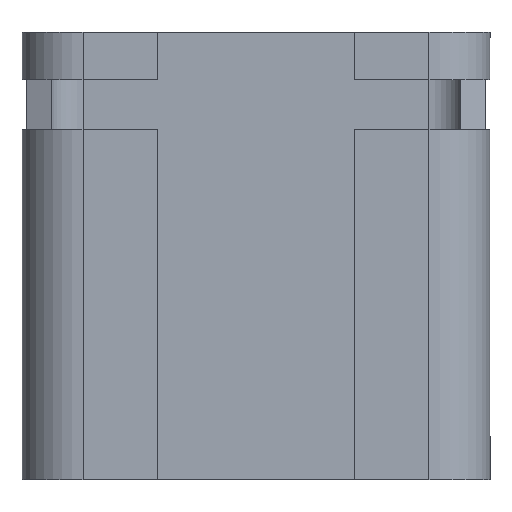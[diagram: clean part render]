
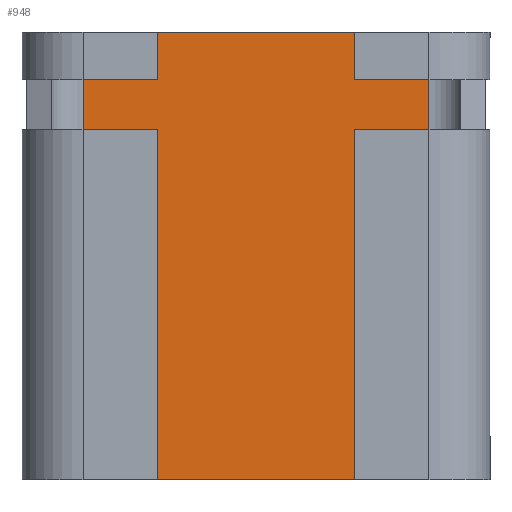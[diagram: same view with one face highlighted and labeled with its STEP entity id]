
A CAD part, front view. The second image highlights one B-rep face of the part: STEP entity #948.
In plain terms, the highlighted planar face has unit normal (0, -1, 0).
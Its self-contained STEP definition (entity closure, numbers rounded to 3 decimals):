
#17 = DIRECTION ( 'NONE',  ( 0., 0., 1. ) ) ;
#148 = VERTEX_POINT ( 'NONE', #265 ) ;
#193 = DIRECTION ( 'NONE',  ( 1., 0., 0. ) ) ;
#265 = CARTESIAN_POINT ( 'NONE',  ( 4., 2.45, -6.6 ) ) ;
#273 = DIRECTION ( 'NONE',  ( 0., 0., 1. ) ) ;
#277 = CARTESIAN_POINT ( 'NONE',  ( -2., 2.45, -6.6 ) ) ;
#301 = CARTESIAN_POINT ( 'NONE',  ( 4., 2.45, -6.6 ) ) ;
#338 = ORIENTED_EDGE ( 'NONE', *, *, #340, .T. ) ;
#340 = EDGE_CURVE ( 'NONE', #148, #398, #1695, .T. ) ;
#343 = ORIENTED_EDGE ( 'NONE', *, *, #1321, .F. ) ;
#398 = VERTEX_POINT ( 'NONE', #504 ) ;
#428 = VERTEX_POINT ( 'NONE', #1433 ) ;
#504 = CARTESIAN_POINT ( 'NONE',  ( 4., 2.45, 0. ) ) ;
#510 = PLANE ( 'NONE',  #1678 ) ;
#614 = CARTESIAN_POINT ( 'NONE',  ( -1.1, 2.45, 0. ) ) ;
#695 = EDGE_LOOP ( 'NONE', ( #835, #343, #1873, #338 ) ) ;
#737 = VERTEX_POINT ( 'NONE', #614 ) ;
#777 = LINE ( 'NONE', #1113, #1712 ) ;
#818 = EDGE_CURVE ( 'NONE', #428, #148, #1369, .T. ) ;
#835 = ORIENTED_EDGE ( 'NONE', *, *, #1498, .F. ) ;
#948 = ADVANCED_FACE ( 'NONE', ( #1591 ), #510, .T. ) ;
#1113 = CARTESIAN_POINT ( 'NONE',  ( -2., 2.45, 0. ) ) ;
#1133 = CARTESIAN_POINT ( 'NONE',  ( -2., 2.45, -6.6 ) ) ;
#1321 = EDGE_CURVE ( 'NONE', #428, #737, #1363, .T. ) ;
#1363 = LINE ( 'NONE', #1383, #1648 ) ;
#1369 = LINE ( 'NONE', #277, #1507 ) ;
#1383 = CARTESIAN_POINT ( 'NONE',  ( -1.1, 2.45, -6.6 ) ) ;
#1433 = CARTESIAN_POINT ( 'NONE',  ( -1.1, 2.45, -6.6 ) ) ;
#1498 = EDGE_CURVE ( 'NONE', #737, #398, #777, .T. ) ;
#1507 = VECTOR ( 'NONE', #1993, 1000. ) ;
#1591 = FACE_OUTER_BOUND ( 'NONE', #695, .T. ) ;
#1648 = VECTOR ( 'NONE', #273, 1000. ) ;
#1678 = AXIS2_PLACEMENT_3D ( 'NONE', #1133, #1924, #1724 ) ;
#1695 = LINE ( 'NONE', #301, #1917 ) ;
#1712 = VECTOR ( 'NONE', #193, 1000. ) ;
#1724 = DIRECTION ( 'NONE',  ( 0., 0., -1. ) ) ;
#1873 = ORIENTED_EDGE ( 'NONE', *, *, #818, .T. ) ;
#1917 = VECTOR ( 'NONE', #17, 1000. ) ;
#1924 = DIRECTION ( 'NONE',  ( 0., -1., 0. ) ) ;
#1993 = DIRECTION ( 'NONE',  ( 1., 0., 0. ) ) ;
